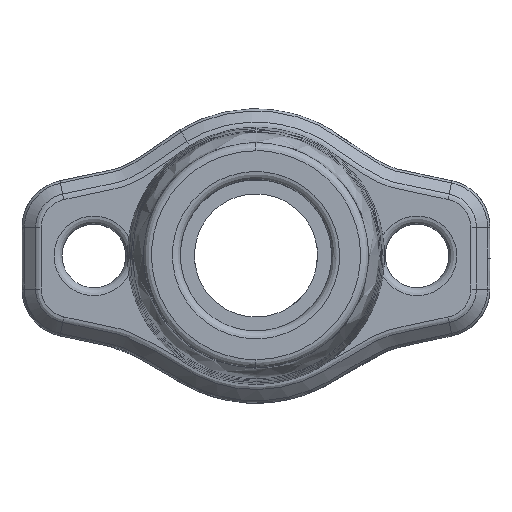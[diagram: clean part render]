
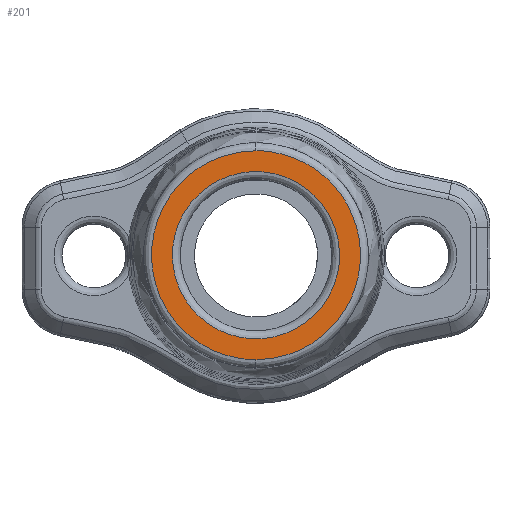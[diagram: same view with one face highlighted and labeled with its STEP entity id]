
A CAD part, top view. The second image highlights one B-rep face of the part: STEP entity #201.
In plain terms, the highlighted planar face has unit normal (0, 0, 1).
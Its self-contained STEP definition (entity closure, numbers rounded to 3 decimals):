
#27=FACE_BOUND('',#569,.T.);
#201=ADVANCED_FACE('',(#378,#27),#2674,.T.);
#378=FACE_OUTER_BOUND('',#568,.T.);
#568=EDGE_LOOP('',(#1415,#1416));
#569=EDGE_LOOP('',(#1417));
#1415=ORIENTED_EDGE('',*,*,#1870,.T.);
#1416=ORIENTED_EDGE('',*,*,#1867,.T.);
#1417=ORIENTED_EDGE('',*,*,#1873,.F.);
#1867=EDGE_CURVE('',#2590,#2589,#2305,.T.);
#1870=EDGE_CURVE('',#2589,#2590,#2308,.T.);
#1873=EDGE_CURVE('',#2591,#2591,#2311,.T.);
#2305=(
BOUNDED_CURVE()
B_SPLINE_CURVE(3,(#13766,#13767,#13768,#13769,#13770,#13771,#13772,#13773,
#13774,#13775,#13776,#13777,#13778,#13779,#13780,#13781,#13782,#13783,#13784,
#13785,#13786,#13787,#13788,#13789,#13790),.UNSPECIFIED.,.F.,.F.)
B_SPLINE_CURVE_WITH_KNOTS((4,3,3,3,3,3,3,3,4),(20.609,23.082,
25.761,28.441,30.914,33.386,36.066,
38.745,41.218),.UNSPECIFIED.)
CURVE()
GEOMETRIC_REPRESENTATION_ITEM()
RATIONAL_B_SPLINE_CURVE((1.,1.,1.,1.,1.,
1.,1.,1.,1.,1.,1.,1.,1.,
1.,1.,1.,1.,
1.,1.,1.,1.,
1.,1.,1.,1.))
REPRESENTATION_ITEM('')
);
#2308=(
BOUNDED_CURVE()
B_SPLINE_CURVE(3,(#13797,#13798,#13799,#13800,#13801,#13802,#13803,#13804,
#13805,#13806,#13807,#13808,#13809,#13810,#13811,#13812,#13813,#13814,#13815,
#13816,#13817,#13818,#13819,#13820,#13821,#13822,#13823,#13824),
 .UNSPECIFIED.,.F.,.F.)
B_SPLINE_CURVE_WITH_KNOTS((4,3,3,3,3,3,3,3,3,4),(0.,0.,
2.473,5.152,7.832,10.305,12.777,
15.457,18.136,20.609),.UNSPECIFIED.)
CURVE()
GEOMETRIC_REPRESENTATION_ITEM()
RATIONAL_B_SPLINE_CURVE((1.,1.,1.,1.,1.,1.,1.,1.,1.,1.,1.,1.,1.,1.,1.,1.,
1.,1.,1.,1.,
1.,1.,1.,1.,1.,1.,1.,1.))
REPRESENTATION_ITEM('')
);
#2311=(
BOUNDED_CURVE()
B_SPLINE_CURVE(2,(#13837,#13838,#13839,#13840,#13841,#13842,#13843,#13844,
#13845),.UNSPECIFIED.,.T.,.F.)
B_SPLINE_CURVE_WITH_KNOTS((3,2,2,2,3),(0.,8.246,16.493,
24.739,32.986),.UNSPECIFIED.)
CURVE()
GEOMETRIC_REPRESENTATION_ITEM()
RATIONAL_B_SPLINE_CURVE((1.,0.707,1.,0.707,1.,0.707,
1.,0.707,1.))
REPRESENTATION_ITEM('')
);
#2589=VERTEX_POINT('',#10092);
#2590=VERTEX_POINT('',#10093);
#2591=VERTEX_POINT('',#10094);
#2674=PLANE('',#2947);
#2947=AXIS2_PLACEMENT_3D('',#9601,#3039,$);
#3039=DIRECTION('',(0.,0.,1.));
#9601=CARTESIAN_POINT('',(-13.502,-5.403,36.238));
#10092=CARTESIAN_POINT('',(-6.311,-4.772,36.238));
#10093=CARTESIAN_POINT('',(-6.311,8.348,36.238));
#10094=CARTESIAN_POINT('',(-1.061,1.788,36.238));
#13766=CARTESIAN_POINT('',(-6.311,8.348,36.238));
#13767=CARTESIAN_POINT('',(-7.135,8.348,36.238));
#13768=CARTESIAN_POINT('',(-7.959,8.191,36.238));
#13769=CARTESIAN_POINT('',(-8.726,7.888,36.238));
#13770=CARTESIAN_POINT('',(-9.556,7.559,36.238));
#13771=CARTESIAN_POINT('',(-10.318,7.058,36.238));
#13772=CARTESIAN_POINT('',(-10.95,6.427,36.238));
#13773=CARTESIAN_POINT('',(-11.581,5.796,36.238));
#13774=CARTESIAN_POINT('',(-12.082,5.033,36.238));
#13775=CARTESIAN_POINT('',(-12.411,4.203,36.238));
#13776=CARTESIAN_POINT('',(-12.714,3.437,36.238));
#13777=CARTESIAN_POINT('',(-12.871,2.612,36.238));
#13778=CARTESIAN_POINT('',(-12.871,1.788,36.238));
#13779=CARTESIAN_POINT('',(-12.871,0.964,36.238));
#13780=CARTESIAN_POINT('',(-12.714,0.14,36.238));
#13781=CARTESIAN_POINT('',(-12.411,-0.627,36.238));
#13782=CARTESIAN_POINT('',(-12.082,-1.457,36.238));
#13783=CARTESIAN_POINT('',(-11.581,-2.22,36.238));
#13784=CARTESIAN_POINT('',(-10.95,-2.851,36.238));
#13785=CARTESIAN_POINT('',(-10.318,-3.482,36.238));
#13786=CARTESIAN_POINT('',(-9.556,-3.983,36.238));
#13787=CARTESIAN_POINT('',(-8.726,-4.312,36.238));
#13788=CARTESIAN_POINT('',(-7.959,-4.615,36.238));
#13789=CARTESIAN_POINT('',(-7.135,-4.773,36.238));
#13790=CARTESIAN_POINT('',(-6.311,-4.772,36.238));
#13797=CARTESIAN_POINT('',(-6.311,-4.772,36.238));
#13798=CARTESIAN_POINT('',(-6.311,-4.772,36.238));
#13799=CARTESIAN_POINT('',(-6.311,-4.772,36.238));
#13800=CARTESIAN_POINT('',(-6.311,-4.772,36.238));
#13801=CARTESIAN_POINT('',(-5.486,-4.773,36.238));
#13802=CARTESIAN_POINT('',(-4.662,-4.615,36.238));
#13803=CARTESIAN_POINT('',(-3.896,-4.312,36.238));
#13804=CARTESIAN_POINT('',(-3.065,-3.983,36.238));
#13805=CARTESIAN_POINT('',(-2.303,-3.482,36.238));
#13806=CARTESIAN_POINT('',(-1.672,-2.851,36.238));
#13807=CARTESIAN_POINT('',(-1.04,-2.22,36.238));
#13808=CARTESIAN_POINT('',(-0.54,-1.457,36.238));
#13809=CARTESIAN_POINT('',(-0.211,-0.627,36.238));
#13810=CARTESIAN_POINT('',(0.093,0.14,36.238));
#13811=CARTESIAN_POINT('',(0.25,0.964,36.238));
#13812=CARTESIAN_POINT('',(0.25,1.788,36.238));
#13813=CARTESIAN_POINT('',(0.25,2.612,36.238));
#13814=CARTESIAN_POINT('',(0.093,3.437,36.238));
#13815=CARTESIAN_POINT('',(-0.211,4.203,36.238));
#13816=CARTESIAN_POINT('',(-0.54,5.033,36.238));
#13817=CARTESIAN_POINT('',(-1.04,5.796,36.238));
#13818=CARTESIAN_POINT('',(-1.672,6.427,36.238));
#13819=CARTESIAN_POINT('',(-2.303,7.058,36.238));
#13820=CARTESIAN_POINT('',(-3.065,7.559,36.238));
#13821=CARTESIAN_POINT('',(-3.896,7.888,36.238));
#13822=CARTESIAN_POINT('',(-4.662,8.191,36.238));
#13823=CARTESIAN_POINT('',(-5.486,8.348,36.238));
#13824=CARTESIAN_POINT('',(-6.311,8.348,36.238));
#13837=CARTESIAN_POINT('',(-1.061,1.788,36.238));
#13838=CARTESIAN_POINT('',(-1.061,7.038,36.238));
#13839=CARTESIAN_POINT('',(-6.311,7.038,36.238));
#13840=CARTESIAN_POINT('',(-11.561,7.038,36.238));
#13841=CARTESIAN_POINT('',(-11.561,1.788,36.238));
#13842=CARTESIAN_POINT('',(-11.561,-3.462,36.238));
#13843=CARTESIAN_POINT('',(-6.311,-3.462,36.238));
#13844=CARTESIAN_POINT('',(-1.061,-3.462,36.238));
#13845=CARTESIAN_POINT('',(-1.061,1.788,36.238));
